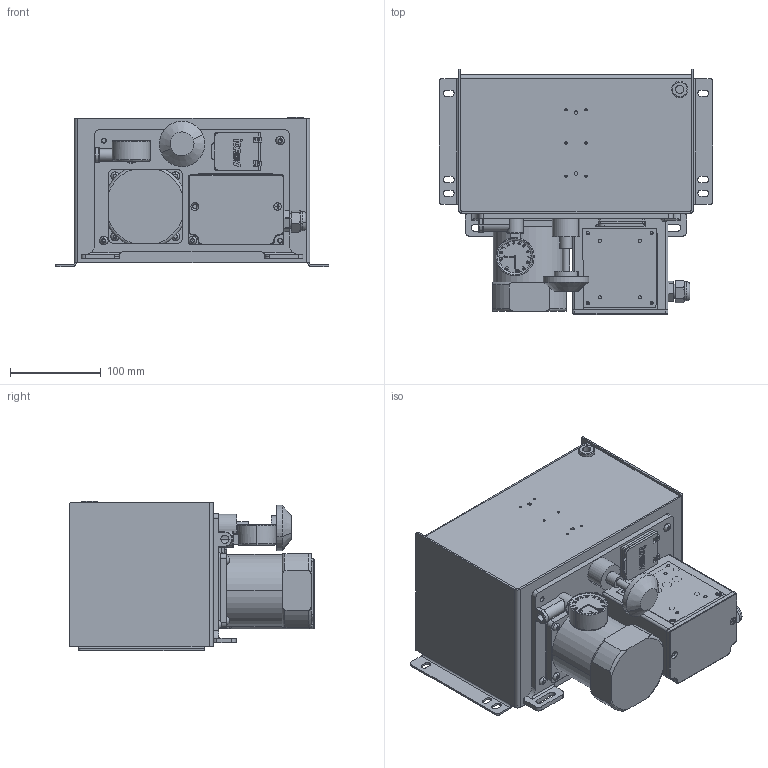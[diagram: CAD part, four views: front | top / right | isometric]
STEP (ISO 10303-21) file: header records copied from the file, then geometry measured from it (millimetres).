
FILE_DESCRIPTION (( 'STEP AP203' ), '1' );
FILE_NAME ('AMG带控制抵坑式4L.STEP', '2020-04-13T06:48:22', ( '个人用户' ), ( '微软中国' ), 'SwSTEP 2.0', 'SolidWorks 2018', '' );
FILE_SCHEMA (( 'CONFIG_CONTROL_DESIGN' ));
Length unit declared in the file: millimetre
Products named in the file (1): AMG湍諷秶萋諧宒4L
Bounding box: 301 x 269.5 x 164 mm (x, y, z)
Surface area: 444896.2 mm2 (no closed solid volume)
Topology: 0 solids, 39 shells, 562 faces, 2234 edges, 1690 vertices
Faces by surface type: plane 283, cylinder 182, cone 42, bspline 21, torus 20, sphere 14
Entity records: 28822 total; most frequent: CARTESIAN_POINT 10356, DIRECTION 3804, ORIENTED_EDGE 3321, EDGE_CURVE 2234, VERTEX_POINT 1690, LINE 1294, VECTOR 1294, AXIS2_PLACEMENT_3D 1255
